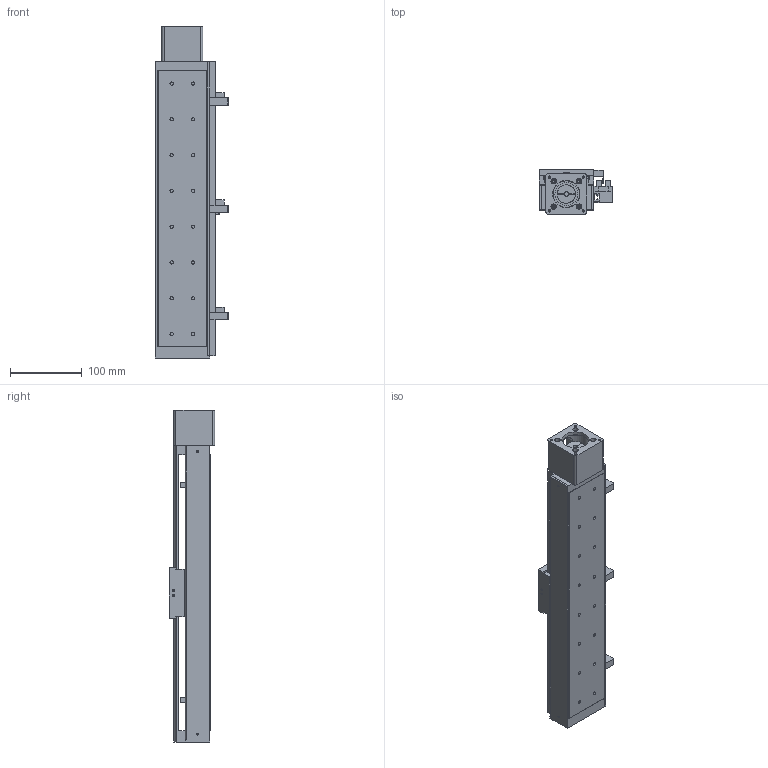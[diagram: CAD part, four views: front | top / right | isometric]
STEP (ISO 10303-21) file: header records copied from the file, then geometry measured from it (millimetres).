
FILE_DESCRIPTION((''),'2;1');
FILE_NAME('E:\uia actuator\UIA actuator 3d- 2009\Standard ball screw actuator\UIA076R9DC\UIA076R9DC-STEP file\with motor mount\UIA076R9DC step file 18Apr16\UIA076R9DC-300-R1205(or R1210)-M23-P13-C10-S.stp','2016-04-20T08:20:55',('h029'),(''),'Autodesk Inventor 11','Autodesk Inventor 11','');
FILE_SCHEMA(('AUTOMOTIVE_DESIGN { 1 0 10303 214 1 1 1 1 }'));
Length unit declared in the file: millimetre
Products named in the file (10): UIA076R9DC-300-R1205(or R1210)-M23-P13-C10-S; UIA076R9DC-300-BODY; UIA076R9DC-300-sensor rail; UIA076R9DC-CARRIAGE; UIA076R9DC-SENSOR FLAG; 01-100 0110 Motor MOUNT-M23; SOH-25C; SOH-25C-2; SOH-25C-3; SOH-25C-1
Assembly tree (9 placements, depth 3):
  UIA076R9DC-300-R1205(or R1210)-M23-P13-C10-S
    UIA076R9DC-300-BODY
    UIA076R9DC-300-sensor rail
    UIA076R9DC-CARRIAGE
    UIA076R9DC-SENSOR FLAG
    01-100 0110 Motor MOUNT-M23
    SOH-25C
      SOH-25C-2
      SOH-25C-3
      SOH-25C-1
Bounding box: 103 x 63 x 464 mm (x, y, z)
Volume: 741152 mm3; surface area: 291632.8 mm2
Topology: 8 solids, 8 shells, 428 faces, 1191 edges, 784 vertices
Faces by surface type: plane 291, cylinder 109, cone 21, bspline 7
Full cylindrical faces by diameter (mm): 2.459 x8, 3 x2, 3.242 x16, 3.5 x4, 4 x6, 4.5 x20, 6 x2, 7.5 x20, 22 x1, 25.5 x3, 32 x1, 37 x1, 38.1 x1
Entity records: 13578 total; most frequent: CARTESIAN_POINT 2688, DIRECTION 2162, ORIENTED_EDGE 2064, EDGE_CURVE 1032, VECTOR 760, LINE 760, VERTEX_POINT 737, AXIS2_PLACEMENT_3D 701
